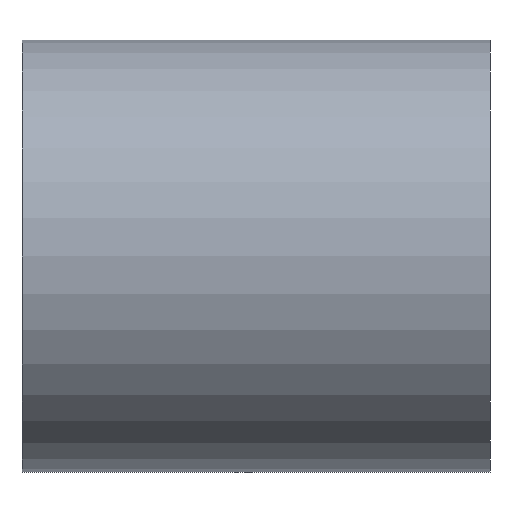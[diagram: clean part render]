
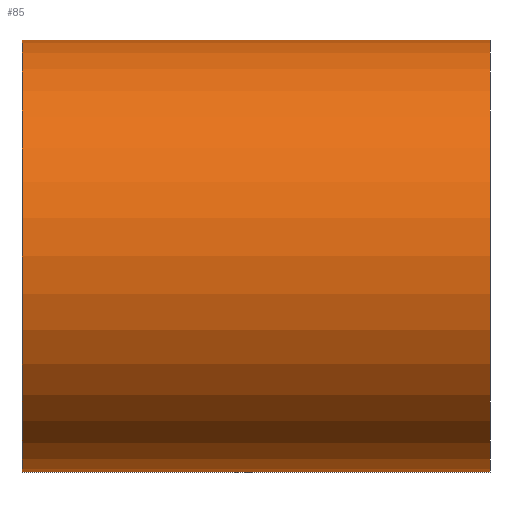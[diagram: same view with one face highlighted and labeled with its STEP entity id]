
A CAD part, front view. The second image highlights one B-rep face of the part: STEP entity #85.
In plain terms, the highlighted cylindrical face has radius 6 mm (diameter 12 mm), a full revolution.
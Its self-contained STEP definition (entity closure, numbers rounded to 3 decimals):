
#31 = PLANE('',#32);
#32 = AXIS2_PLACEMENT_3D('',#33,#34,#35);
#33 = CARTESIAN_POINT('',(37.,0.,0.));
#34 = DIRECTION('',(1.,0.,0.));
#35 = DIRECTION('',(-0.,1.,0.));
#57 = EDGE_CURVE('',#58,#58,#60,.T.);
#58 = VERTEX_POINT('',#59);
#59 = CARTESIAN_POINT('',(37.,6.,0.));
#60 = SURFACE_CURVE('',#61,(#66,#73),.PCURVE_S1.);
#61 = CIRCLE('',#62,6.);
#62 = AXIS2_PLACEMENT_3D('',#63,#64,#65);
#63 = CARTESIAN_POINT('',(37.,0.,0.));
#64 = DIRECTION('',(1.,0.,0.));
#65 = DIRECTION('',(-0.,1.,0.));
#66 = PCURVE('',#31,#67);
#67 = DEFINITIONAL_REPRESENTATION('',(#68),#72);
#68 = CIRCLE('',#69,6.);
#69 = AXIS2_PLACEMENT_2D('',#70,#71);
#70 = CARTESIAN_POINT('',(0.,0.));
#71 = DIRECTION('',(1.,-0.));
#72 = ( GEOMETRIC_REPRESENTATION_CONTEXT(2) 
PARAMETRIC_REPRESENTATION_CONTEXT() REPRESENTATION_CONTEXT('2D SPACE',''
  ) );
#73 = PCURVE('',#74,#79);
#74 = CYLINDRICAL_SURFACE('',#75,6.);
#75 = AXIS2_PLACEMENT_3D('',#76,#77,#78);
#76 = CARTESIAN_POINT('',(37.,0.,0.));
#77 = DIRECTION('',(1.,0.,0.));
#78 = DIRECTION('',(-0.,1.,0.));
#79 = DEFINITIONAL_REPRESENTATION('',(#80),#84);
#80 = LINE('',#81,#82);
#81 = CARTESIAN_POINT('',(0.,0.));
#82 = VECTOR('',#83,1.);
#83 = DIRECTION('',(1.,0.));
#84 = ( GEOMETRIC_REPRESENTATION_CONTEXT(2) 
PARAMETRIC_REPRESENTATION_CONTEXT() REPRESENTATION_CONTEXT('2D SPACE',''
  ) );
#85 = ADVANCED_FACE('',(#86),#74,.T.);
#86 = FACE_BOUND('',#87,.T.);
#87 = EDGE_LOOP('',(#88,#89,#112,#139));
#88 = ORIENTED_EDGE('',*,*,#57,.T.);
#89 = ORIENTED_EDGE('',*,*,#90,.T.);
#90 = EDGE_CURVE('',#58,#91,#93,.T.);
#91 = VERTEX_POINT('',#92);
#92 = CARTESIAN_POINT('',(50.,6.,0.));
#93 = SEAM_CURVE('',#94,(#98,#105),.PCURVE_S1.);
#94 = LINE('',#95,#96);
#95 = CARTESIAN_POINT('',(37.,6.,0.));
#96 = VECTOR('',#97,1.);
#97 = DIRECTION('',(1.,0.,0.));
#98 = PCURVE('',#74,#99);
#99 = DEFINITIONAL_REPRESENTATION('',(#100),#104);
#100 = LINE('',#101,#102);
#101 = CARTESIAN_POINT('',(0.,0.));
#102 = VECTOR('',#103,1.);
#103 = DIRECTION('',(0.,1.));
#104 = ( GEOMETRIC_REPRESENTATION_CONTEXT(2) 
PARAMETRIC_REPRESENTATION_CONTEXT() REPRESENTATION_CONTEXT('2D SPACE',''
  ) );
#105 = PCURVE('',#74,#106);
#106 = DEFINITIONAL_REPRESENTATION('',(#107),#111);
#107 = LINE('',#108,#109);
#108 = CARTESIAN_POINT('',(6.283,0.));
#109 = VECTOR('',#110,1.);
#110 = DIRECTION('',(0.,1.));
#111 = ( GEOMETRIC_REPRESENTATION_CONTEXT(2) 
PARAMETRIC_REPRESENTATION_CONTEXT() REPRESENTATION_CONTEXT('2D SPACE',''
  ) );
#112 = ORIENTED_EDGE('',*,*,#113,.F.);
#113 = EDGE_CURVE('',#91,#91,#114,.T.);
#114 = SURFACE_CURVE('',#115,(#120,#127),.PCURVE_S1.);
#115 = CIRCLE('',#116,6.);
#116 = AXIS2_PLACEMENT_3D('',#117,#118,#119);
#117 = CARTESIAN_POINT('',(50.,0.,0.));
#118 = DIRECTION('',(1.,0.,0.));
#119 = DIRECTION('',(-0.,1.,0.));
#120 = PCURVE('',#74,#121);
#121 = DEFINITIONAL_REPRESENTATION('',(#122),#126);
#122 = LINE('',#123,#124);
#123 = CARTESIAN_POINT('',(0.,13.));
#124 = VECTOR('',#125,1.);
#125 = DIRECTION('',(1.,0.));
#126 = ( GEOMETRIC_REPRESENTATION_CONTEXT(2) 
PARAMETRIC_REPRESENTATION_CONTEXT() REPRESENTATION_CONTEXT('2D SPACE',''
  ) );
#127 = PCURVE('',#128,#133);
#128 = PLANE('',#129);
#129 = AXIS2_PLACEMENT_3D('',#130,#131,#132);
#130 = CARTESIAN_POINT('',(50.,0.,0.));
#131 = DIRECTION('',(1.,0.,0.));
#132 = DIRECTION('',(-0.,1.,0.));
#133 = DEFINITIONAL_REPRESENTATION('',(#134),#138);
#134 = CIRCLE('',#135,6.);
#135 = AXIS2_PLACEMENT_2D('',#136,#137);
#136 = CARTESIAN_POINT('',(0.,0.));
#137 = DIRECTION('',(1.,0.));
#138 = ( GEOMETRIC_REPRESENTATION_CONTEXT(2) 
PARAMETRIC_REPRESENTATION_CONTEXT() REPRESENTATION_CONTEXT('2D SPACE',''
  ) );
#139 = ORIENTED_EDGE('',*,*,#90,.F.);
